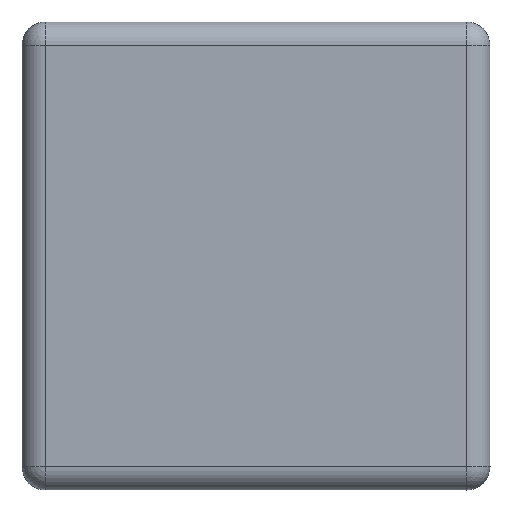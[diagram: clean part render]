
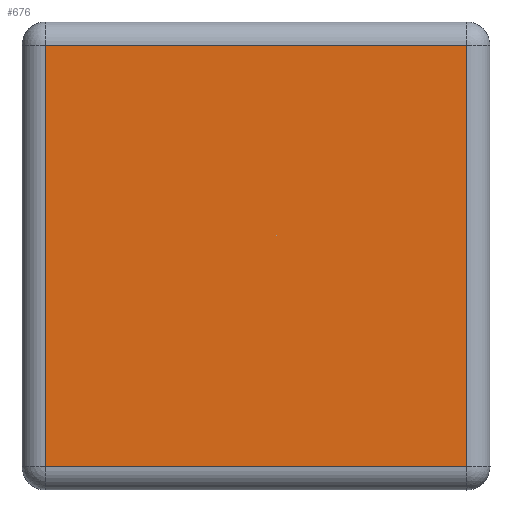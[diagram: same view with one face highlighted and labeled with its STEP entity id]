
A CAD part, front view. The second image highlights one B-rep face of the part: STEP entity #676.
In plain terms, the highlighted planar face has unit normal (0, -1, 0).
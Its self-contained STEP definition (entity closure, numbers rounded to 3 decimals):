
#177 = EDGE_CURVE ( 'NONE', #3403, #4310, #2158, .T. ) ;
#319 = VECTOR ( 'NONE', #3313, 1000. ) ;
#415 = VERTEX_POINT ( 'NONE', #2714 ) ;
#526 = LINE ( 'NONE', #3158, #1461 ) ;
#676 = ADVANCED_FACE ( 'NONE', ( #2536 ), #2033, .T. ) ;
#870 = CARTESIAN_POINT ( 'NONE',  ( 27., -60., -3. ) ) ;
#918 = CARTESIAN_POINT ( 'NONE',  ( -27., -60., -57. ) ) ;
#1342 = EDGE_CURVE ( 'NONE', #4310, #2124, #1925, .T. ) ;
#1366 = DIRECTION ( 'NONE',  ( 0., -1., 0. ) ) ;
#1461 = VECTOR ( 'NONE', #2478, 1000. ) ;
#1478 = CARTESIAN_POINT ( 'NONE',  ( -27., -60., -3. ) ) ;
#1627 = CARTESIAN_POINT ( 'NONE',  ( -30., -60., -3. ) ) ;
#1925 = LINE ( 'NONE', #3618, #3624 ) ;
#2033 = PLANE ( 'NONE',  #2597 ) ;
#2124 = VERTEX_POINT ( 'NONE', #918 ) ;
#2158 = LINE ( 'NONE', #1627, #319 ) ;
#2225 = VECTOR ( 'NONE', #3605, 1000. ) ;
#2360 = EDGE_CURVE ( 'NONE', #2124, #415, #3140, .T. ) ;
#2478 = DIRECTION ( 'NONE',  ( 0., 0., 1. ) ) ;
#2536 = FACE_OUTER_BOUND ( 'NONE', #4104, .T. ) ;
#2597 = AXIS2_PLACEMENT_3D ( 'NONE', #3395, #1366, #3728 ) ;
#2714 = CARTESIAN_POINT ( 'NONE',  ( 27., -60., -57. ) ) ;
#3087 = ORIENTED_EDGE ( 'NONE', *, *, #4251, .T. ) ;
#3140 = LINE ( 'NONE', #3916, #2225 ) ;
#3158 = CARTESIAN_POINT ( 'NONE',  ( 27., -60., 0. ) ) ;
#3275 = DIRECTION ( 'NONE',  ( 0., 0., -1. ) ) ;
#3313 = DIRECTION ( 'NONE',  ( -1., 0., 0. ) ) ;
#3367 = ORIENTED_EDGE ( 'NONE', *, *, #2360, .T. ) ;
#3395 = CARTESIAN_POINT ( 'NONE',  ( 0., -60., -30. ) ) ;
#3403 = VERTEX_POINT ( 'NONE', #870 ) ;
#3605 = DIRECTION ( 'NONE',  ( 1., 0., 0. ) ) ;
#3618 = CARTESIAN_POINT ( 'NONE',  ( -27., -60., -60. ) ) ;
#3624 = VECTOR ( 'NONE', #3275, 1000. ) ;
#3705 = ORIENTED_EDGE ( 'NONE', *, *, #177, .T. ) ;
#3728 = DIRECTION ( 'NONE',  ( -1., 0., 0. ) ) ;
#3916 = CARTESIAN_POINT ( 'NONE',  ( 30., -60., -57. ) ) ;
#4104 = EDGE_LOOP ( 'NONE', ( #3367, #3087, #3705, #4133 ) ) ;
#4133 = ORIENTED_EDGE ( 'NONE', *, *, #1342, .T. ) ;
#4251 = EDGE_CURVE ( 'NONE', #415, #3403, #526, .T. ) ;
#4310 = VERTEX_POINT ( 'NONE', #1478 ) ;
